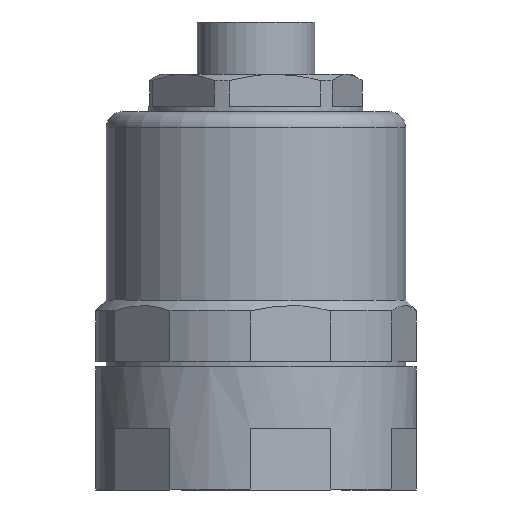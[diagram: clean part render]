
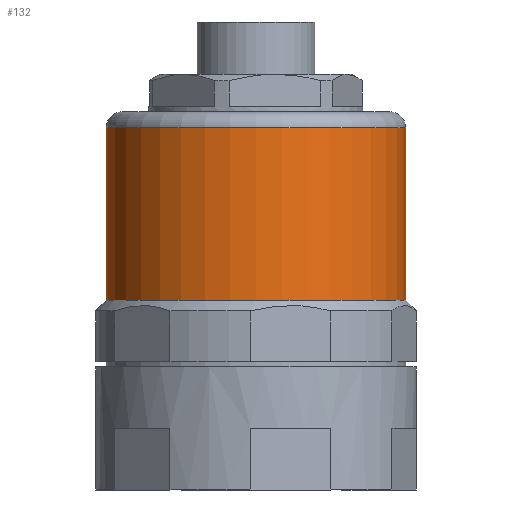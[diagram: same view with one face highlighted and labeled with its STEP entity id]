
A CAD part, front view. The second image highlights one B-rep face of the part: STEP entity #132.
In plain terms, the highlighted cylindrical face has radius 28 mm (diameter 56 mm), a full revolution.
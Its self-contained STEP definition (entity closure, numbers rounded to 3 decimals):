
#132=ADVANCED_FACE('',(#285,#286),#287,.T.);
#285=FACE_OUTER_BOUND('',#460,.T.);
#286=FACE_OUTER_BOUND('',#461,.T.);
#287=CYLINDRICAL_SURFACE('',#462,28.0);
#460=EDGE_LOOP('',(#918));
#461=EDGE_LOOP('',(#919));
#462=AXIS2_PLACEMENT_3D('',#920,#921,#922);
#918=ORIENTED_EDGE('',*,*,#1192,.T.);
#919=ORIENTED_EDGE('',*,*,#1189,.F.);
#920=CARTESIAN_POINT('',(0.0,0.0,0.0));
#921=DIRECTION('',(0.0,0.,-1.0));
#922=DIRECTION('',(0.0,1.0,0.));
#1189=EDGE_CURVE('',#1456,#1456,#1457,.T.);
#1192=EDGE_CURVE('',#1461,#1461,#1462,.T.);
#1456=VERTEX_POINT('',#1917);
#1457=CIRCLE('',#1918,28.0);
#1461=VERTEX_POINT('',#1931);
#1462=CIRCLE('',#1932,28.0);
#1917=CARTESIAN_POINT('',(0.0,28.0,35.5));
#1918=AXIS2_PLACEMENT_3D('',#2170,#2171,#2172);
#1931=CARTESIAN_POINT('',(0.0,28.0,67.7));
#1932=AXIS2_PLACEMENT_3D('',#2176,#2177,#2178);
#2170=CARTESIAN_POINT('',(0.0,0.,35.5));
#2171=DIRECTION('',(0.0,0.,-1.0));
#2172=DIRECTION('',(0.0,1.0,0.));
#2176=CARTESIAN_POINT('',(0.0,0.,67.7));
#2177=DIRECTION('',(0.0,0.,-1.0));
#2178=DIRECTION('',(0.0,1.0,0.));
